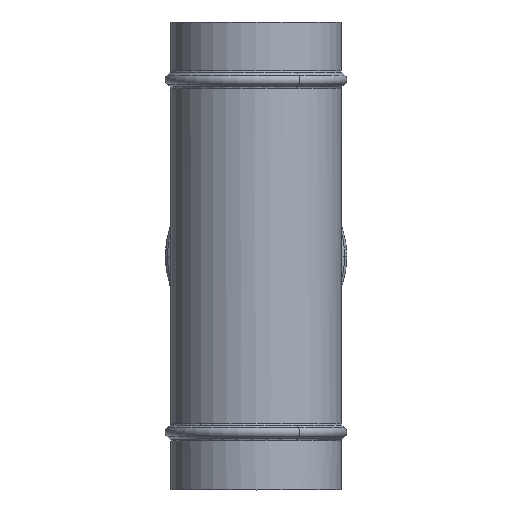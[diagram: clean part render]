
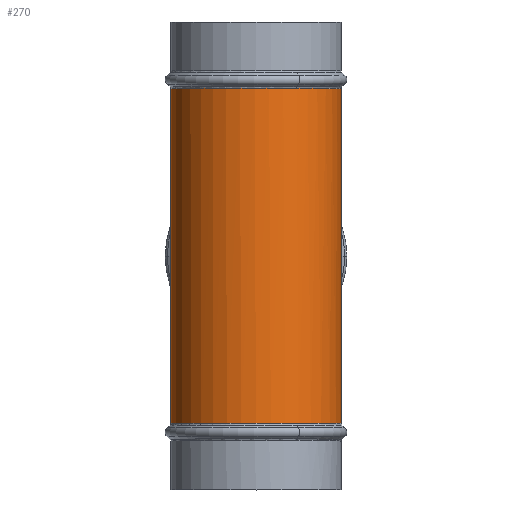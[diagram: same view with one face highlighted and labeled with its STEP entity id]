
A CAD part, top view. The second image highlights one B-rep face of the part: STEP entity #270.
In plain terms, the highlighted cylindrical face has radius 50.9 mm (diameter 101.8 mm), a partial arc.
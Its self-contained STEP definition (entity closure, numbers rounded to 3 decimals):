
#111=CYLINDRICAL_SURFACE('',#1078,50.9);
#156=LINE('',#2462,#190);
#157=LINE('',#2464,#191);
#172=LINE('',#2545,#206);
#173=LINE('',#2547,#207);
#190=VECTOR('',#1257,1.);
#191=VECTOR('',#1258,1.);
#206=VECTOR('',#1367,1.);
#207=VECTOR('',#1368,1.);
#270=ADVANCED_FACE('',(#345),#111,.T.);
#345=FACE_OUTER_BOUND('',#406,.T.);
#406=EDGE_LOOP('',(#624,#625,#626,#627,#628,#629,#630));
#624=ORIENTED_EDGE('',*,*,#848,.T.);
#625=ORIENTED_EDGE('',*,*,#805,.F.);
#626=ORIENTED_EDGE('',*,*,#811,.T.);
#627=ORIENTED_EDGE('',*,*,#806,.T.);
#628=ORIENTED_EDGE('',*,*,#847,.F.);
#629=ORIENTED_EDGE('',*,*,#850,.T.);
#630=ORIENTED_EDGE('',*,*,#851,.T.);
#689=VERTEX_POINT('',#1528);
#690=VERTEX_POINT('',#1529);
#710=VERTEX_POINT('',#2463);
#711=VERTEX_POINT('',#2465);
#730=VERTEX_POINT('',#2546);
#731=VERTEX_POINT('',#2548);
#732=VERTEX_POINT('',#2552);
#805=EDGE_CURVE('LINE',#710,#689,#156,.T.);
#806=EDGE_CURVE('LINE',#711,#690,#157,.T.);
#811=EDGE_CURVE('GENERATED CIRCLE',#710,#711,#918,.T.);
#847=EDGE_CURVE('LINE',#730,#690,#172,.T.);
#848=EDGE_CURVE('LINE',#731,#689,#173,.T.);
#850=EDGE_CURVE('GENERATED CIRCLE',#730,#732,#941,.T.);
#851=EDGE_CURVE('GENERATED CIRCLE',#732,#731,#942,.T.);
#918=CIRCLE('',#1033,50.9);
#941=CIRCLE('',#1076,50.9);
#942=CIRCLE('',#1077,50.9);
#1033=AXIS2_PLACEMENT_3D('',#2473,#1271,#1272);
#1076=AXIS2_PLACEMENT_3D('',#2551,#1373,#1374);
#1077=AXIS2_PLACEMENT_3D('',#2553,#1375,#1376);
#1078=AXIS2_PLACEMENT_3D('',#2554,#1377,#1378);
#1257=DIRECTION('',(0.,1.,0.));
#1258=DIRECTION('',(0.,1.,0.));
#1271=DIRECTION('',(0.,1.,0.));
#1272=DIRECTION('',(1.,0.,0.));
#1367=DIRECTION('',(0.,-1.,0.));
#1368=DIRECTION('',(0.,-1.,0.));
#1373=DIRECTION('',(0.,-1.,0.));
#1374=DIRECTION('',(1.,0.,0.));
#1375=DIRECTION('',(0.,-1.,0.));
#1376=DIRECTION('',(1.,0.,0.));
#1377=DIRECTION('',(0.,1.,0.));
#1378=DIRECTION('',(1.,0.,0.));
#1528=CARTESIAN_POINT('',(-50.9,0.,0.));
#1529=CARTESIAN_POINT('',(50.9,0.,0.));
#2462=CARTESIAN_POINT('',(-50.9,0.,0.));
#2463=CARTESIAN_POINT('',(-50.9,-100.232,0.));
#2464=CARTESIAN_POINT('',(50.9,0.,0.));
#2465=CARTESIAN_POINT('',(50.9,-100.232,0.));
#2473=CARTESIAN_POINT('',(0.,-100.232,0.));
#2545=CARTESIAN_POINT('',(50.9,0.,0.));
#2546=CARTESIAN_POINT('',(50.9,100.232,0.));
#2547=CARTESIAN_POINT('',(-50.9,0.,0.));
#2548=CARTESIAN_POINT('',(-50.9,100.232,0.));
#2551=CARTESIAN_POINT('',(0.,100.232,0.));
#2552=CARTESIAN_POINT('',(24.403,100.232,44.669));
#2553=CARTESIAN_POINT('',(0.,100.232,0.));
#2554=CARTESIAN_POINT('',(0.,0.,0.));
